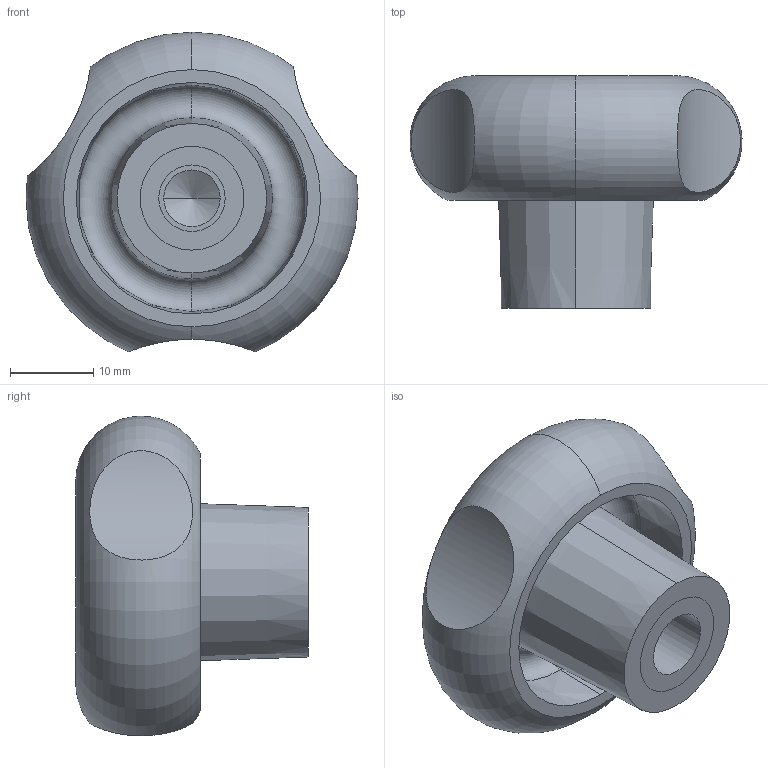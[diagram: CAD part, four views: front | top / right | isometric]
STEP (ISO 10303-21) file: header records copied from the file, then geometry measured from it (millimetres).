
FILE_DESCRIPTION (( 'STEP AP203' ), '1' );
FILE_NAME ('Default.step', '2017-10-27T09:56:05', ( '' ), ( '' ), 'SwSTEP 2.0', 'SolidWorks 2017', '' );
FILE_SCHEMA (( 'CONFIG_CONTROL_DESIGN' ));
Length unit declared in the file: millimetre
Products named in the file (3): Part1; Default; Part2
Assembly tree (2 placements, depth 2):
  Default
    Part1
    Part2
Bounding box: 39.98 x 28 x 38.49 mm (x, y, z)
Volume: 15255.8 mm3; surface area: 7568.8 mm2
Topology: 2 solids, 2 shells, 30 faces, 63 edges, 41 vertices
Faces by surface type: cylinder 11, cone 6, plane 5, sphere 4, torus 4
Entity records: 1377 total; most frequent: CARTESIAN_POINT 407, DIRECTION 166, ORIENTED_EDGE 122, AXIS2_PLACEMENT_3D 76, EDGE_CURVE 61, VERTEX_POINT 41, CIRCLE 41, EDGE_LOOP 36
